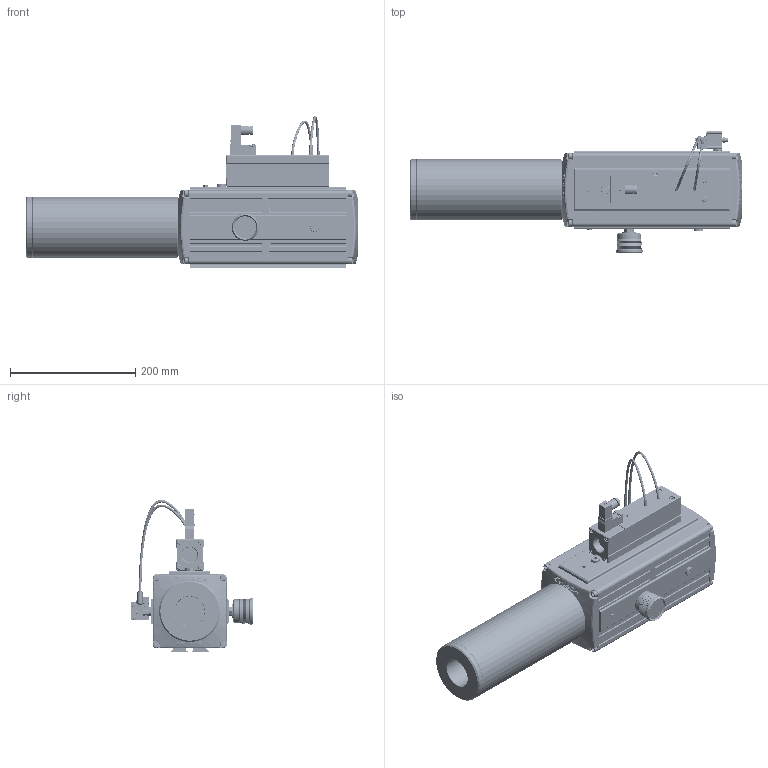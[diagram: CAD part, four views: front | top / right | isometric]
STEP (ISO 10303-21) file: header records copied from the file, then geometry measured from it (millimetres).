
FILE_DESCRIPTION( ( 'Unknown' ), '1' );
FILE_NAME( 'C:/Documents and Settings/Administrator/官帕 拳搁/MPM 荐沥霸捞瘤/MPM303X10-02S-ASV-A3-DN.stp', 'Unknown', ( 'Unknown' ), ( 'Unknown' ), 'PSStep 10.0', 'Unknown', ' ' );
FILE_SCHEMA( ( 'AUTOMOTIVE_DESIGN { 1 0 10303 214 1 1 1 1 }' ) );
Length unit declared in the file: millimetre
Products named in the file (28): SILENCER_0_0_0; Assem1; VMS34-B-ASV(DIM)_0; VPS-01-1_0; VPS-01_0; VPS-01(H)_0; COVER_0_0_0; ELEMENT_7_0; SPONGE_7_0; END CAP_7_0; DIN Valve_1_0; FITTING_0; BODY-A(ASV)(DIM)_0; BODY-B-ASV(DIM)_0; M6-Bolt_10_0; VTP18_13_0; END CAP-212_10_0; VTP-M5_13_0; red_10_0; END CAP-112_3_0; Air Cirquit_10_0; Double Tread 18M-18M_2_0; 1_1; 2_0; Body(re1)(dim)_2_0; VTP-M5_0; VTP18_0; 1
Bounding box: 530 x 195.8 x 242.59 mm (x, y, z)
Volume: 13596220.8 mm3; surface area: 2153737.6 mm2
Topology: 74 solids, 80 shells, 7023 faces, 17782 edges, 11564 vertices
Faces by surface type: plane 4446, cylinder 1504, cone 427, extrusion 250, torus 169, bspline 122, sphere 96, revolution 9
Full cylindrical faces by diameter (mm): 0.518 x2, 0.884 x4, 1 x5, 1.008 x9, 1.5 x6, 1.8 x6, 1.9 x5, 2 x5, 2.2 x6, 2.3 x14, 2.5 x14, 3 x11, 3.2 x6, 3.4 x12, 4 x12, 4.075 x4, 4.2 x52, 4.336 x3, 4.5 x12, 4.552 x4, 4.619 x5, 5 x9, 5.2 x12, 5.5 x17, 6 x13, 6.064 x3, 6.337 x4, 6.5 x16, 6.535 x3, 6.8 x14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
Entity records: 121279 total; most frequent: CARTESIAN_POINT 30551, DIRECTION 13525, ORIENTED_EDGE 13366, EDGE_CURVE 6683, VERTEX_POINT 4581, AXIS2_PLACEMENT_3D 4578, VECTOR 4366, LINE 4268
